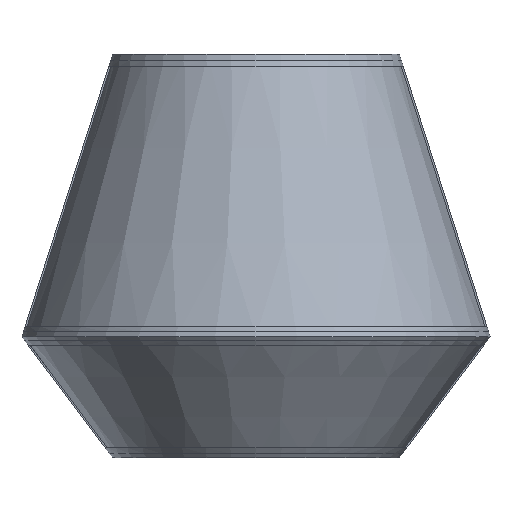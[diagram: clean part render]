
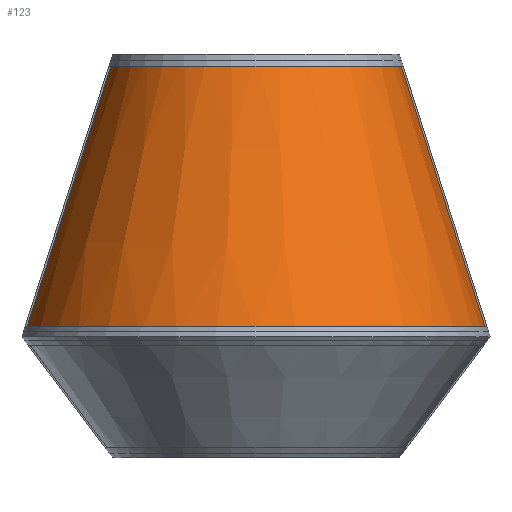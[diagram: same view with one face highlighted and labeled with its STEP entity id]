
A CAD part, front view. The second image highlights one B-rep face of the part: STEP entity #123.
In plain terms, the highlighted conical face has half-angle 17.819 degrees and reference radius 115 mm.
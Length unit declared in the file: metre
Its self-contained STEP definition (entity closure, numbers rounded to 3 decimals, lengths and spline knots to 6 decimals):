
#123 = ADVANCED_FACE( '', ( #176 ), #177, .T. );
#176 = FACE_OUTER_BOUND( '', #280, .T. );
#177 = CONICAL_SURFACE( '', #281, 0.115, 0.311 );
#280 = EDGE_LOOP( '', ( #384, #385, #386, #387 ) );
#281 = AXIS2_PLACEMENT_3D( '', #388, #389, #390 );
#384 = ORIENTED_EDGE( '', *, *, #804, .F. );
#385 = ORIENTED_EDGE( '', *, *, #805, .F. );
#386 = ORIENTED_EDGE( '', *, *, #806, .F. );
#387 = ORIENTED_EDGE( '', *, *, #807, .T. );
#388 = CARTESIAN_POINT( '', ( 0., 0., -0.04 ) );
#389 = DIRECTION( '', ( 0., 0., -1. ) );
#390 = DIRECTION( '', ( -1., 0., 0. ) );
#804 = EDGE_CURVE( '', #936, #937, #938, .F. );
#805 = EDGE_CURVE( '', #939, #936, #940, .T. );
#806 = EDGE_CURVE( '', #941, #939, #942, .F. );
#807 = EDGE_CURVE( '', #941, #937, #943, .T. );
#936 = VERTEX_POINT( '', #1148 );
#937 = VERTEX_POINT( '', #1149 );
#938 = LINE( '', #1150, #1151 );
#939 = VERTEX_POINT( '', #1152 );
#940 = CIRCLE( '', #1153, 0.115 );
#941 = VERTEX_POINT( '', #1154 );
#942 = LINE( '', #1155, #1156 );
#943 = CIRCLE( '', #1157, 0.07 );
#1148 = CARTESIAN_POINT( '', ( -0.115, 0., -0.04 ) );
#1149 = CARTESIAN_POINT( '', ( -0.07, 0., 0.1 ) );
#1150 = CARTESIAN_POINT( '', ( 0., 0., 0.317778 ) );
#1151 = VECTOR( '', #1456, 1. );
#1152 = CARTESIAN_POINT( '', ( 0.115, 0., -0.04 ) );
#1153 = AXIS2_PLACEMENT_3D( '', #1457, #1458, #1459 );
#1154 = CARTESIAN_POINT( '', ( 0.07, 0., 0.1 ) );
#1155 = CARTESIAN_POINT( '', ( 0., 0., 0.317778 ) );
#1156 = VECTOR( '', #1460, 1. );
#1157 = AXIS2_PLACEMENT_3D( '', #1461, #1462, #1463 );
#1456 = DIRECTION( '', ( -0.306, 0., -0.952 ) );
#1457 = CARTESIAN_POINT( '', ( 0., 0., -0.04 ) );
#1458 = DIRECTION( '', ( 0., 0., -1. ) );
#1459 = DIRECTION( '', ( -1., 0., 0. ) );
#1460 = DIRECTION( '', ( -0.306, 0., 0.952 ) );
#1461 = CARTESIAN_POINT( '', ( 0., 0., 0.1 ) );
#1462 = DIRECTION( '', ( 0., 0., -1. ) );
#1463 = DIRECTION( '', ( -1., 0., 0. ) );
